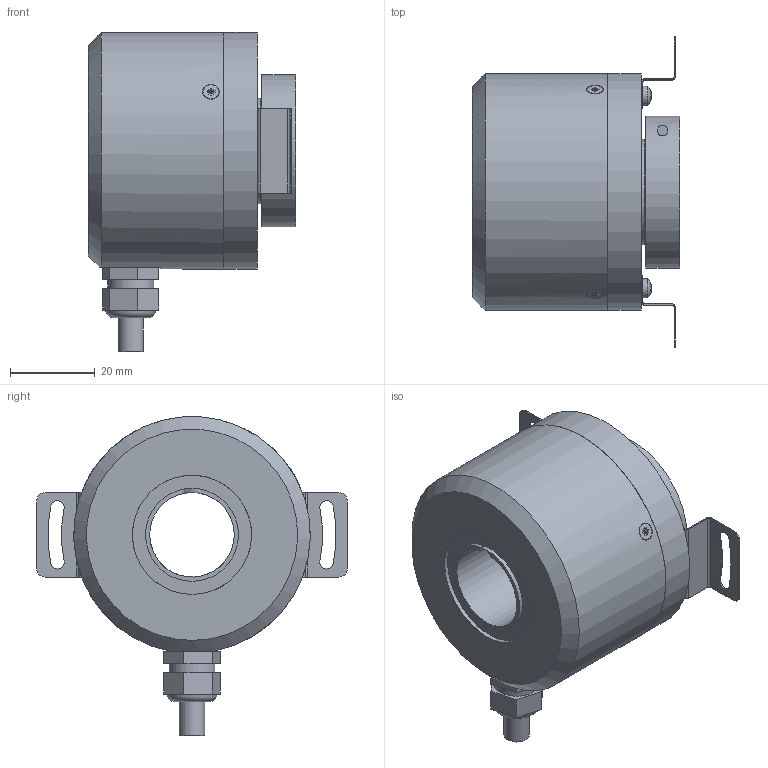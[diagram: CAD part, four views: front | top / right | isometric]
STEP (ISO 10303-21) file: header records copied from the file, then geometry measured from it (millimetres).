
FILE_DESCRIPTION(('STEP AP214'), '1');
FILE_NAME('SE58T20', '2025-02-07T07:16:35', (''), (''), 'C3D Converter', 'C3D Toolkit', '');
FILE_SCHEMA(('AUTOMOTIVE_DESIGN { 1 0 10303 214 3 1 1}'));
Length unit declared in the file: millimetre
Products named in the file (21): ОДП-58-20; Винт_M2.5 x 5.0; Фланец; Винт; Кабель; Кабельный_ввод; Винт_M2.0 x 5.0; Винт_M3.0 x 12.0; Крышка; Втулка; Муфта; Вал; Корпус; Подшипник; __; __1
Assembly tree (35 placements, depth 4):
  ОДП-58-20
    Винт_M2.5 x 5.0
    Винт_M2.5 x 5.0
    Винт_M2.5 x 5.0
    Винт_M2.5 x 5.0
    Фланец
    Винт
    Кабель
    Кабельный_ввод
    Винт_M2.0 x 5.0  x3
    Винт_M3.0 x 12.0
    Крышка
    Втулка
    Муфта
    Вал
    Корпус
    Подшипник
      __
      __1
      __
        __  x14
Bounding box: 49 x 73.5 x 75.5 mm (x, y, z)
Volume: 53444.6 mm3; surface area: 43831 mm2
Topology: 33 solids, 33 shells, 569 faces, 1430 edges, 935 vertices
Faces by surface type: plane 400, cylinder 134, sphere 18, torus 7, cone 7, bspline 3
Full cylindrical faces by diameter (mm): 1 x2, 1.4 x3, 2 x3, 2.125 x4, 2.2 x3, 2.4 x4, 2.5 x5, 2.8 x4, 2.995 x1, 3 x1, 3.5 x1, 3.8 x3, 4.5 x4, 5.5 x1, 6 x2, 6.8 x1, 8 x1, 10.85 x1, 20 x1, 21.4 x1, 22 x3, 24 x1, 24.25 x2, 25 x3, 28.2 x1, 28.5 x2, 30 x1, 31 x1, 33 x1, 33.3 x2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
Entity records: 21555 total; most frequent: CARTESIAN_POINT 5572, DIRECTION 2318, ORIENTED_EDGE 2102, EDGE_CURVE 1051, AXIS2_PLACEMENT_3D 860, VERTEX_POINT 742, EDGE_LOOP 613, LINE 598
